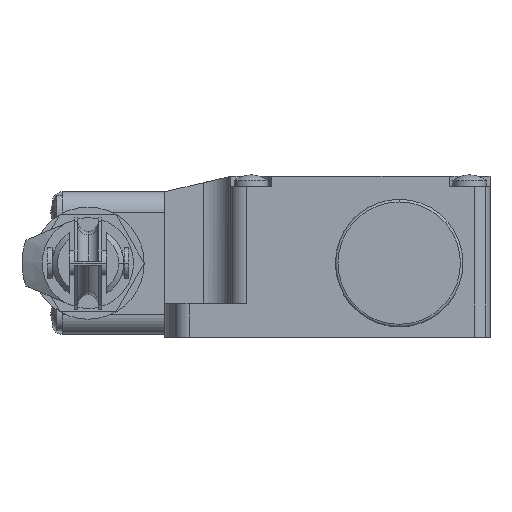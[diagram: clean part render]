
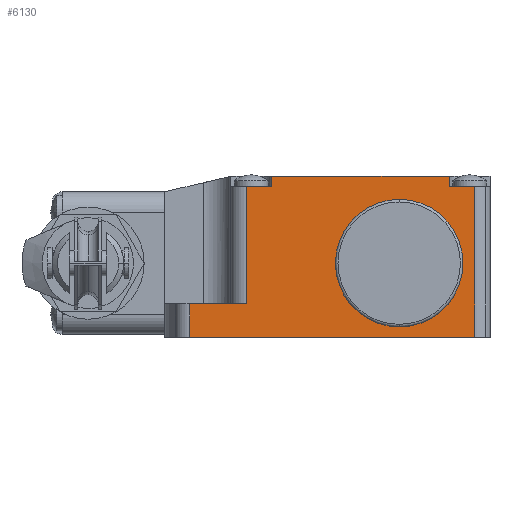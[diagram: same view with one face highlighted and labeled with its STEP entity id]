
A CAD part, left-side view. The second image highlights one B-rep face of the part: STEP entity #6130.
In plain terms, the highlighted planar face has unit normal (-1, 0, 0).
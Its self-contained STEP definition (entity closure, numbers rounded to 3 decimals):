
#285 = EDGE_CURVE ( 'NONE', #8236, #5407, #9463, .T. ) ;
#458 = ORIENTED_EDGE ( 'NONE', *, *, #285, .F. ) ;
#520 = LINE ( 'NONE', #10827, #11378 ) ;
#560 = CARTESIAN_POINT ( 'NONE',  ( -28., 2.05, -14.5 ) ) ;
#613 = ORIENTED_EDGE ( 'NONE', *, *, #16780, .T. ) ;
#660 = VERTEX_POINT ( 'NONE', #7932 ) ;
#715 = EDGE_CURVE ( 'NONE', #10586, #18106, #10976, .T. ) ;
#736 = VECTOR ( 'NONE', #3060, 1000. ) ;
#817 = CARTESIAN_POINT ( 'NONE',  ( -28., -39., -10.2 ) ) ;
#954 = DIRECTION ( 'NONE',  ( 0., -1., 0. ) ) ;
#971 = CARTESIAN_POINT ( 'NONE',  ( -28., -48.8, 15. ) ) ;
#1155 = DIRECTION ( 'NONE',  ( 0., 0., 1. ) ) ;
#1336 = DIRECTION ( 'NONE',  ( 0., 0., 1. ) ) ;
#1428 = ORIENTED_EDGE ( 'NONE', *, *, #9099, .F. ) ;
#1601 = VECTOR ( 'NONE', #4433, 1000. ) ;
#1762 = EDGE_LOOP ( 'NONE', ( #7351, #10240 ) ) ;
#1915 = LINE ( 'NONE', #15461, #10496 ) ;
#2077 = VECTOR ( 'NONE', #12281, 1000. ) ;
#2348 = VECTOR ( 'NONE', #15390, 1000. ) ;
#2516 = AXIS2_PLACEMENT_3D ( 'NONE', #4875, #16105, #6516 ) ;
#2547 = ORIENTED_EDGE ( 'NONE', *, *, #20594, .F. ) ;
#2559 = EDGE_LOOP ( 'NONE', ( #613, #5124, #5233, #2547, #16914, #12140, #1428, #12204, #16463, #458 ) ) ;
#2834 = CARTESIAN_POINT ( 'NONE',  ( -28., -14., 15. ) ) ;
#3060 = DIRECTION ( 'NONE',  ( 0., 0., 1. ) ) ;
#3930 = CARTESIAN_POINT ( 'NONE',  ( -28., 2.05, -8. ) ) ;
#4147 = CARTESIAN_POINT ( 'NONE',  ( -28., 2.05, -14.5 ) ) ;
#4271 = CARTESIAN_POINT ( 'NONE',  ( -28., 7., -8. ) ) ;
#4324 = VERTEX_POINT ( 'NONE', #11494 ) ;
#4433 = DIRECTION ( 'NONE',  ( 0., 0., 1. ) ) ;
#4641 = AXIS2_PLACEMENT_3D ( 'NONE', #20607, #11016, #1336 ) ;
#4781 = EDGE_CURVE ( 'NONE', #9422, #11620, #10155, .T. ) ;
#4875 = CARTESIAN_POINT ( 'NONE',  ( -28., -39., 0. ) ) ;
#4902 = PLANE ( 'NONE',  #6078 ) ;
#5124 = ORIENTED_EDGE ( 'NONE', *, *, #4781, .F. ) ;
#5168 = VECTOR ( 'NONE', #14171, 1000. ) ;
#5218 = EDGE_CURVE ( 'NONE', #16083, #660, #16911, .T. ) ;
#5233 = ORIENTED_EDGE ( 'NONE', *, *, #15512, .F. ) ;
#5309 = CIRCLE ( 'NONE', #4641, 10.2 ) ;
#5407 = VERTEX_POINT ( 'NONE', #18506 ) ;
#5556 = LINE ( 'NONE', #15896, #736 ) ;
#5787 = LINE ( 'NONE', #18643, #8537 ) ;
#6078 = AXIS2_PLACEMENT_3D ( 'NONE', #8158, #19385, #9760 ) ;
#6130 = ADVANCED_FACE ( 'NONE', ( #8601, #12878 ), #4902, .T. ) ;
#6205 = DIRECTION ( 'NONE',  ( 0., -1., 0. ) ) ;
#6516 = DIRECTION ( 'NONE',  ( 0., 0., 1. ) ) ;
#7351 = ORIENTED_EDGE ( 'NONE', *, *, #17304, .F. ) ;
#7932 = CARTESIAN_POINT ( 'NONE',  ( -28., -9., 15. ) ) ;
#8158 = CARTESIAN_POINT ( 'NONE',  ( -28., 2.05, -14.5 ) ) ;
#8236 = VERTEX_POINT ( 'NONE', #971 ) ;
#8537 = VECTOR ( 'NONE', #20258, 1000. ) ;
#8601 = FACE_BOUND ( 'NONE', #1762, .T. ) ;
#9099 = EDGE_CURVE ( 'NONE', #18509, #17922, #5556, .T. ) ;
#9187 = VERTEX_POINT ( 'NONE', #19288 ) ;
#9422 = VERTEX_POINT ( 'NONE', #15691 ) ;
#9423 = CARTESIAN_POINT ( 'NONE',  ( -28., 2.05, 17. ) ) ;
#9463 = LINE ( 'NONE', #12550, #5168 ) ;
#9760 = DIRECTION ( 'NONE',  ( 0., 0., 1. ) ) ;
#10032 = EDGE_CURVE ( 'NONE', #9187, #5407, #5787, .T. ) ;
#10155 = LINE ( 'NONE', #9423, #19695 ) ;
#10240 = ORIENTED_EDGE ( 'NONE', *, *, #715, .F. ) ;
#10496 = VECTOR ( 'NONE', #954, 1000. ) ;
#10586 = VERTEX_POINT ( 'NONE', #817 ) ;
#10688 = LINE ( 'NONE', #2834, #1601 ) ;
#10827 = CARTESIAN_POINT ( 'NONE',  ( -28., -48.8, 15. ) ) ;
#10934 = LINE ( 'NONE', #4147, #2348 ) ;
#10976 = CIRCLE ( 'NONE', #2516, 10.2 ) ;
#10978 = CARTESIAN_POINT ( 'NONE',  ( -28., -39., 10.2 ) ) ;
#11016 = DIRECTION ( 'NONE',  ( -1., 0., 0. ) ) ;
#11089 = DIRECTION ( 'NONE',  ( 0., 0., 1. ) ) ;
#11378 = VECTOR ( 'NONE', #1155, 1000. ) ;
#11494 = CARTESIAN_POINT ( 'NONE',  ( -28., -14., 15. ) ) ;
#11620 = VERTEX_POINT ( 'NONE', #17753 ) ;
#12140 = ORIENTED_EDGE ( 'NONE', *, *, #16041, .F. ) ;
#12204 = ORIENTED_EDGE ( 'NONE', *, *, #14331, .T. ) ;
#12281 = DIRECTION ( 'NONE',  ( 0., -1., 0. ) ) ;
#12550 = CARTESIAN_POINT ( 'NONE',  ( -28., -48.8, 15. ) ) ;
#12648 = VECTOR ( 'NONE', #11089, 1000. ) ;
#12878 = FACE_OUTER_BOUND ( 'NONE', #2559, .T. ) ;
#14171 = DIRECTION ( 'NONE',  ( 0., -1., 0. ) ) ;
#14331 = EDGE_CURVE ( 'NONE', #18509, #9187, #10934, .T. ) ;
#15390 = DIRECTION ( 'NONE',  ( 0., -1., 0. ) ) ;
#15461 = CARTESIAN_POINT ( 'NONE',  ( -28., -6., 15. ) ) ;
#15512 = EDGE_CURVE ( 'NONE', #4324, #9422, #10688, .T. ) ;
#15691 = CARTESIAN_POINT ( 'NONE',  ( -28., -14., 17. ) ) ;
#15896 = CARTESIAN_POINT ( 'NONE',  ( -28., 2.05, -14.5 ) ) ;
#16041 = EDGE_CURVE ( 'NONE', #17922, #16083, #19196, .T. ) ;
#16083 = VERTEX_POINT ( 'NONE', #17245 ) ;
#16105 = DIRECTION ( 'NONE',  ( -1., 0., 0. ) ) ;
#16463 = ORIENTED_EDGE ( 'NONE', *, *, #10032, .T. ) ;
#16780 = EDGE_CURVE ( 'NONE', #8236, #11620, #520, .T. ) ;
#16911 = LINE ( 'NONE', #20683, #12648 ) ;
#16914 = ORIENTED_EDGE ( 'NONE', *, *, #5218, .F. ) ;
#17245 = CARTESIAN_POINT ( 'NONE',  ( -28., -9., -8. ) ) ;
#17304 = EDGE_CURVE ( 'NONE', #18106, #10586, #5309, .T. ) ;
#17753 = CARTESIAN_POINT ( 'NONE',  ( -28., -48.8, 17. ) ) ;
#17922 = VERTEX_POINT ( 'NONE', #3930 ) ;
#18106 = VERTEX_POINT ( 'NONE', #10978 ) ;
#18506 = CARTESIAN_POINT ( 'NONE',  ( -28., -53.8, 15. ) ) ;
#18509 = VERTEX_POINT ( 'NONE', #560 ) ;
#18643 = CARTESIAN_POINT ( 'NONE',  ( -28., -53.8, -14.5 ) ) ;
#19196 = LINE ( 'NONE', #4271, #2077 ) ;
#19288 = CARTESIAN_POINT ( 'NONE',  ( -28., -53.8, -14.5 ) ) ;
#19385 = DIRECTION ( 'NONE',  ( -1., 0., 0. ) ) ;
#19695 = VECTOR ( 'NONE', #6205, 1000. ) ;
#20258 = DIRECTION ( 'NONE',  ( 0., 0., 1. ) ) ;
#20594 = EDGE_CURVE ( 'NONE', #660, #4324, #1915, .T. ) ;
#20607 = CARTESIAN_POINT ( 'NONE',  ( -28., -39., 0. ) ) ;
#20683 = CARTESIAN_POINT ( 'NONE',  ( -28., -9., -35.76 ) ) ;
